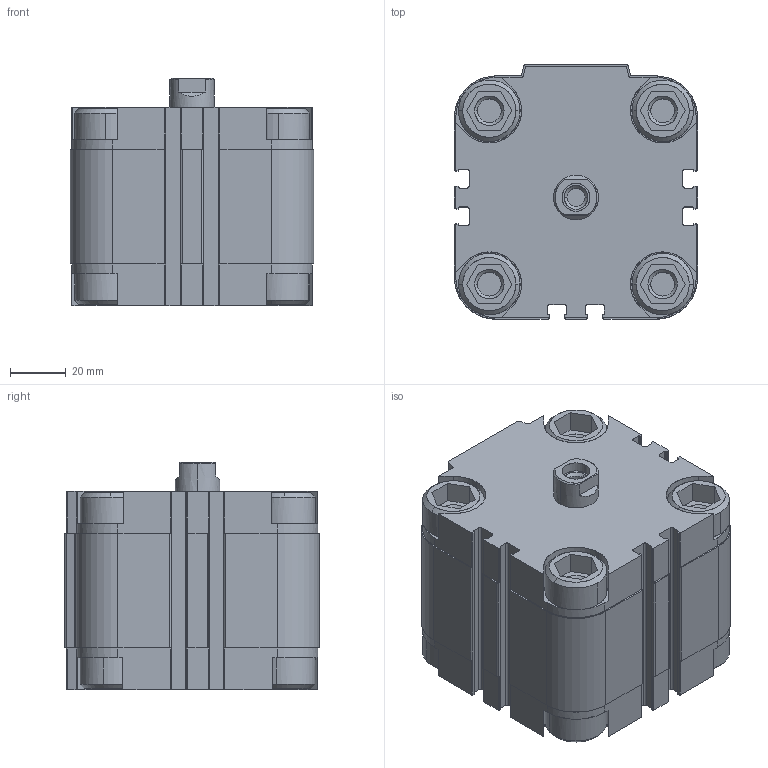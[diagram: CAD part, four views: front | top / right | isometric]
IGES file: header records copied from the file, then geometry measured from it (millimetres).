
Start section: SolidWorks IGES file using analytic representation for surfaces
Global section: file name: K:\Disegni Esecutivi\Cilindri\2_DISEGNI_cilindri_in_produzione\5_Cilindri Compatti\complessivicompatti\QF\QF063\QF063PARTI\QF0630020A.igs; native system: SolidWorks 2011; preprocessor: SolidWorks 2011; author: Cad01; date: 110919.180009; units: millimetre
Bounding box: 87 x 91 x 81.5 mm (x, y, z)
Surface area: 58994.3 mm2 (no closed solid volume)
Topology: 0 solids, 0 shells, 425 faces, 5215 edges, 5215 vertices
Faces by surface type: bspline 224, revolution 201
